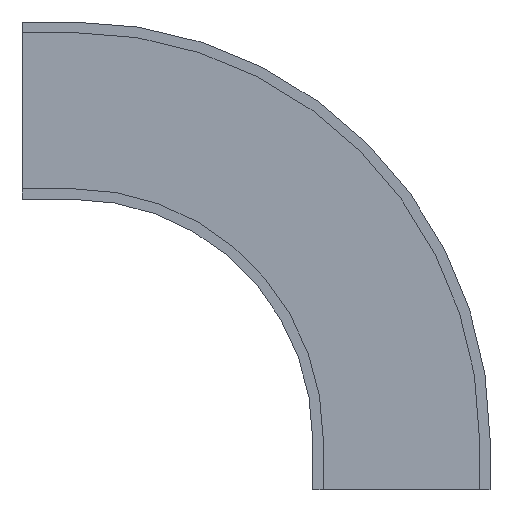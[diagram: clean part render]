
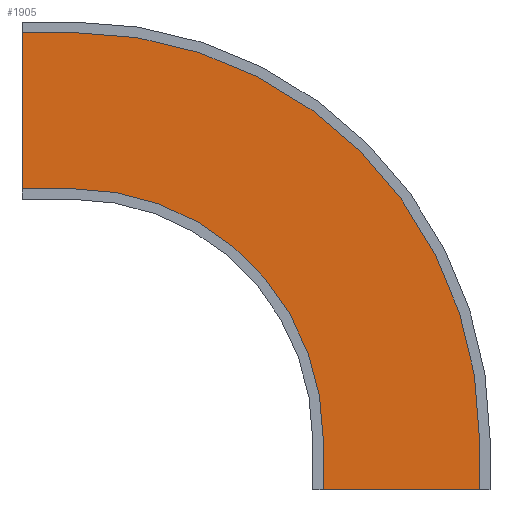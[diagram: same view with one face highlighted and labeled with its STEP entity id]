
A CAD part, front view. The second image highlights one B-rep face of the part: STEP entity #1905.
In plain terms, the highlighted planar face has unit normal (0, -1, 0).
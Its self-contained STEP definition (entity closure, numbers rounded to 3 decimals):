
#229 = CARTESIAN_POINT ( 'NONE',  ( 487.6, -68., 0. ) ) ;
#231 = CARTESIAN_POINT ( 'NONE',  ( 792.4, -68., 0. ) ) ;
#238 = CARTESIAN_POINT ( 'NONE',  ( -100., -68., 487.6 ) ) ;
#272 = CARTESIAN_POINT ( 'NONE',  ( 487.6, -68., -100. ) ) ;
#276 = CARTESIAN_POINT ( 'NONE',  ( 792.4, -68., -100. ) ) ;
#284 = CARTESIAN_POINT ( 'NONE',  ( 0., -68., 792.4 ) ) ;
#290 = CARTESIAN_POINT ( 'NONE',  ( 0., -68., 487.6 ) ) ;
#316 = CARTESIAN_POINT ( 'NONE',  ( -100., -68., 792.4 ) ) ;
#363 = DIRECTION ( 'NONE',  ( -1., 0., 0. ) ) ;
#364 = DIRECTION ( 'NONE',  ( 0., 1., 0. ) ) ;
#365 = CARTESIAN_POINT ( 'NONE',  ( 0., -68., 0. ) ) ;
#483 = AXIS2_PLACEMENT_3D ( 'NONE', #1857, #1853, #1850 ) ;
#530 = AXIS2_PLACEMENT_3D ( 'NONE', #365, #364, #363 ) ;
#554 = DIRECTION ( 'NONE',  ( 1., 0., 0. ) ) ;
#557 = CARTESIAN_POINT ( 'NONE',  ( -100., -68., 487.6 ) ) ;
#565 = DIRECTION ( 'NONE',  ( 0., 0., 1. ) ) ;
#569 = CARTESIAN_POINT ( 'NONE',  ( 487.6, -68., -100. ) ) ;
#580 = CARTESIAN_POINT ( 'NONE',  ( -100., -68., 0. ) ) ;
#584 = AXIS2_PLACEMENT_3D ( 'NONE', #595, #593, #591 ) ;
#585 = EDGE_CURVE ( 'NONE', #1600, #1625, #1165, .T. ) ;
#589 = EDGE_CURVE ( 'NONE', #1632, #1634, #1682, .T. ) ;
#588 = DIRECTION ( 'NONE',  ( 0., 0., 1. ) ) ;
#590 = EDGE_CURVE ( 'NONE', #1625, #1664, #1166, .T. ) ;
#591 = DIRECTION ( 'NONE',  ( -1., 0., 0. ) ) ;
#592 = EDGE_CURVE ( 'NONE', #1632, #1664, #1163, .T. ) ;
#593 = DIRECTION ( 'NONE',  ( 0., 1., 0. ) ) ;
#595 = CARTESIAN_POINT ( 'NONE',  ( 0., -68., 0. ) ) ;
#596 = EDGE_CURVE ( 'NONE', #1659, #1600, #1160, .T. ) ;
#597 = CARTESIAN_POINT ( 'NONE',  ( 792.4, -68., -100. ) ) ;
#599 = EDGE_CURVE ( 'NONE', #1634, #1666, #1155, .T. ) ;
#601 = EDGE_CURVE ( 'NONE', #1659, #1620, #1151, .T. ) ;
#604 = CARTESIAN_POINT ( 'NONE',  ( 0., -68., -100. ) ) ;
#630 = DIRECTION ( 'NONE',  ( -1., 0., 0. ) ) ;
#644 = CARTESIAN_POINT ( 'NONE',  ( -100., -68., 792.4 ) ) ;
#649 = DIRECTION ( 'NONE',  ( 0., 0., 1. ) ) ;
#651 = DIRECTION ( 'NONE',  ( 1., 0., 0. ) ) ;
#826 = FACE_OUTER_BOUND ( 'NONE', #1518, .T. ) ;
#861 = CIRCLE ( 'NONE', #530, 487.6 ) ;
#1111 = EDGE_CURVE ( 'NONE', #1620, #1666, #861, .T. ) ;
#1148 = VECTOR ( 'NONE', #554, 1000. ) ;
#1151 = LINE ( 'NONE', #557, #1148 ) ;
#1152 = VECTOR ( 'NONE', #565, 1000. ) ;
#1155 = LINE ( 'NONE', #569, #1152 ) ;
#1156 = VECTOR ( 'NONE', #588, 1000. ) ;
#1159 = VECTOR ( 'NONE', #649, 1000. ) ;
#1160 = LINE ( 'NONE', #580, #1156 ) ;
#1162 = VECTOR ( 'NONE', #630, 1000. ) ;
#1163 = LINE ( 'NONE', #597, #1159 ) ;
#1164 = VECTOR ( 'NONE', #651, 1000. ) ;
#1165 = LINE ( 'NONE', #644, #1164 ) ;
#1166 = CIRCLE ( 'NONE', #584, 792.4 ) ;
#1385 = ORIENTED_EDGE ( 'NONE', *, *, #590, .F. ) ;
#1386 = ORIENTED_EDGE ( 'NONE', *, *, #585, .F. ) ;
#1387 = ORIENTED_EDGE ( 'NONE', *, *, #596, .F. ) ;
#1389 = ORIENTED_EDGE ( 'NONE', *, *, #601, .T. ) ;
#1390 = ORIENTED_EDGE ( 'NONE', *, *, #1111, .T. ) ;
#1391 = ORIENTED_EDGE ( 'NONE', *, *, #599, .F. ) ;
#1392 = ORIENTED_EDGE ( 'NONE', *, *, #589, .F. ) ;
#1393 = ORIENTED_EDGE ( 'NONE', *, *, #592, .T. ) ;
#1518 = EDGE_LOOP ( 'NONE', ( #1385, #1386, #1387, #1389, #1390, #1391, #1392, #1393 ) ) ;
#1600 = VERTEX_POINT ( 'NONE', #316 ) ;
#1620 = VERTEX_POINT ( 'NONE', #290 ) ;
#1625 = VERTEX_POINT ( 'NONE', #284 ) ;
#1632 = VERTEX_POINT ( 'NONE', #276 ) ;
#1634 = VERTEX_POINT ( 'NONE', #272 ) ;
#1659 = VERTEX_POINT ( 'NONE', #238 ) ;
#1664 = VERTEX_POINT ( 'NONE', #231 ) ;
#1666 = VERTEX_POINT ( 'NONE', #229 ) ;
#1682 = LINE ( 'NONE', #604, #1162 ) ;
#1850 = DIRECTION ( 'NONE',  ( -1., 0., 0. ) ) ;
#1853 = DIRECTION ( 'NONE',  ( 0., 1., 0. ) ) ;
#1857 = CARTESIAN_POINT ( 'NONE',  ( 0., -68., 487.6 ) ) ;
#1859 = PLANE ( 'NONE',  #483 ) ;
#1905 = ADVANCED_FACE ( 'NONE', ( #826 ), #1859, .F. ) ;
